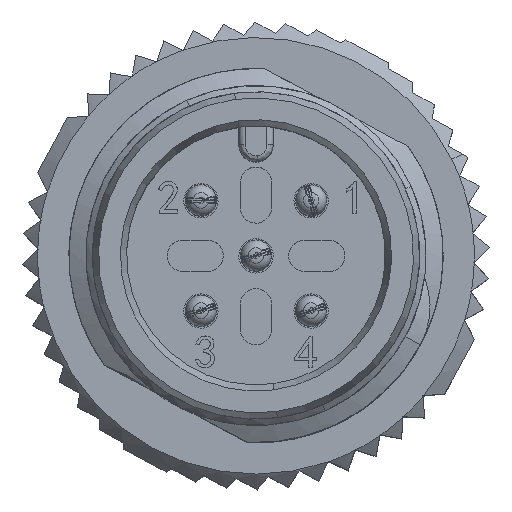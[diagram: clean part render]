
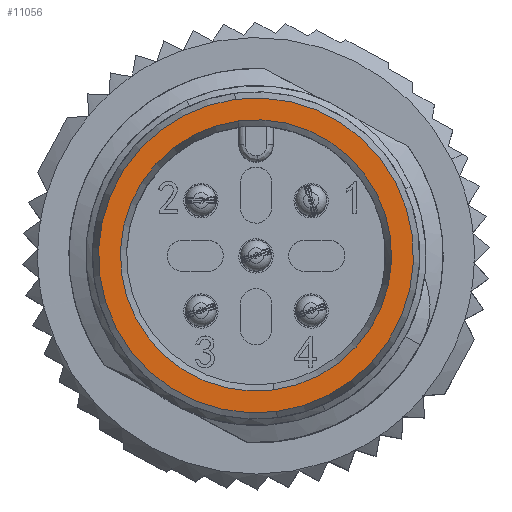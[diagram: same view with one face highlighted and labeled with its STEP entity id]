
A CAD part, top view. The second image highlights one B-rep face of the part: STEP entity #11056.
In plain terms, the highlighted planar face has unit normal (0, 0, 1).
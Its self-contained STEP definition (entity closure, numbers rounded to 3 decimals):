
#205 = CIRCLE ( 'NONE', #8926, 4.35 ) ;
#1071 = EDGE_LOOP ( 'NONE', ( #28400, #37819 ) ) ;
#1186 = EDGE_CURVE ( 'NONE', #32471, #1879, #26685, .T. ) ;
#1596 = PLANE ( 'NONE',  #16999 ) ;
#1879 = VERTEX_POINT ( 'NONE', #30574 ) ;
#4144 = FACE_BOUND ( 'NONE', #15443, .T. ) ;
#5854 = VERTEX_POINT ( 'NONE', #17990 ) ;
#7965 = DIRECTION ( 'NONE',  ( -0.13, 0.991, 0. ) ) ;
#8926 = AXIS2_PLACEMENT_3D ( 'NONE', #36478, #10224, #14008 ) ;
#10224 = DIRECTION ( 'NONE',  ( 0., 0., -1. ) ) ;
#10967 = EDGE_CURVE ( 'NONE', #5854, #19113, #205, .T. ) ;
#11056 = ADVANCED_FACE ( 'NONE', ( #32931, #4144 ), #1596, .T. ) ;
#11747 = CARTESIAN_POINT ( 'NONE',  ( 0., 0., 153.4 ) ) ;
#13576 = DIRECTION ( 'NONE',  ( 0., 0., -1. ) ) ;
#13738 = AXIS2_PLACEMENT_3D ( 'NONE', #11747, #40522, #7965 ) ;
#14008 = DIRECTION ( 'NONE',  ( 0.13, -0.991, 0. ) ) ;
#14317 = ORIENTED_EDGE ( 'NONE', *, *, #10967, .T. ) ;
#14845 = DIRECTION ( 'NONE',  ( 1., 0., 0. ) ) ;
#15387 = DIRECTION ( 'NONE',  ( 0., 0., -1. ) ) ;
#15400 = EDGE_CURVE ( 'NONE', #19113, #5854, #21633, .T. ) ;
#15443 = EDGE_LOOP ( 'NONE', ( #24610, #14317 ) ) ;
#16999 = AXIS2_PLACEMENT_3D ( 'NONE', #17371, #27225, #14845 ) ;
#17371 = CARTESIAN_POINT ( 'NONE',  ( -3.324, -3.323, 153.4 ) ) ;
#17990 = CARTESIAN_POINT ( 'NONE',  ( -0.568, 4.313, 153.4 ) ) ;
#18546 = CARTESIAN_POINT ( 'NONE',  ( -0.659, 5.007, 153.4 ) ) ;
#19113 = VERTEX_POINT ( 'NONE', #36030 ) ;
#20293 = DIRECTION ( 'NONE',  ( 0.13, -0.991, 0. ) ) ;
#20426 = CIRCLE ( 'NONE', #13738, 5.05 ) ;
#21633 = CIRCLE ( 'NONE', #41051, 4.35 ) ;
#24610 = ORIENTED_EDGE ( 'NONE', *, *, #15400, .T. ) ;
#25660 = CARTESIAN_POINT ( 'NONE',  ( 0., 0., 153.4 ) ) ;
#26685 = CIRCLE ( 'NONE', #36088, 5.05 ) ;
#27225 = DIRECTION ( 'NONE',  ( 0., 0., 1. ) ) ;
#28400 = ORIENTED_EDGE ( 'NONE', *, *, #1186, .F. ) ;
#30574 = CARTESIAN_POINT ( 'NONE',  ( 0.659, -5.007, 153.4 ) ) ;
#32471 = VERTEX_POINT ( 'NONE', #18546 ) ;
#32931 = FACE_OUTER_BOUND ( 'NONE', #1071, .T. ) ;
#36030 = CARTESIAN_POINT ( 'NONE',  ( 0.568, -4.313, 153.4 ) ) ;
#36088 = AXIS2_PLACEMENT_3D ( 'NONE', #25660, #15387, #38471 ) ;
#36478 = CARTESIAN_POINT ( 'NONE',  ( 0., 0., 153.4 ) ) ;
#37819 = ORIENTED_EDGE ( 'NONE', *, *, #39407, .F. ) ;
#38471 = DIRECTION ( 'NONE',  ( -0.13, 0.991, 0. ) ) ;
#39407 = EDGE_CURVE ( 'NONE', #1879, #32471, #20426, .T. ) ;
#39609 = CARTESIAN_POINT ( 'NONE',  ( 0., 0., 153.4 ) ) ;
#40522 = DIRECTION ( 'NONE',  ( 0., 0., -1. ) ) ;
#41051 = AXIS2_PLACEMENT_3D ( 'NONE', #39609, #13576, #20293 ) ;
